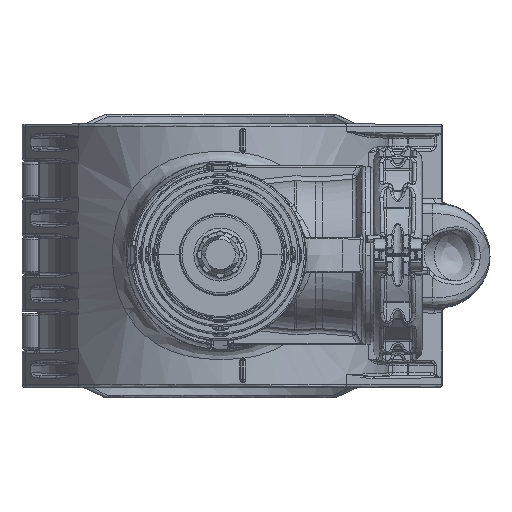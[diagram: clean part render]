
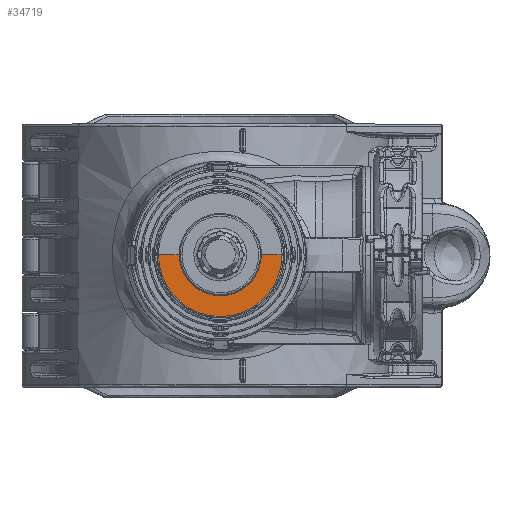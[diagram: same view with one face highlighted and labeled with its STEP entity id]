
A CAD part, top view. The second image highlights one B-rep face of the part: STEP entity #34719.
In plain terms, the highlighted free-form (B-spline) face has degree [1, 1] with [2, 2] control points.
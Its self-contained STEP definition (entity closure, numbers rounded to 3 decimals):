
#34719=ADVANCED_FACE('',(#90751),#90752,.T.);
#75167=VERTEX_POINT('',#131857);
#75169=VERTEX_POINT('',#131859);
#75171=EDGE_CURVE('',#75167,#75169,#131861,.T.);
#75173=VERTEX_POINT('',#131863);
#75175=EDGE_CURVE('',#75167,#75173,#131865,.T.);
#75177=VERTEX_POINT('',#131867);
#75179=EDGE_CURVE('',#75173,#75177,#131869,.T.);
#75181=VERTEX_POINT('',#131871);
#75183=EDGE_CURVE('',#75181,#75177,#131873,.T.);
#75185=EDGE_CURVE('',#75181,#75169,#131875,.T.);
#90751=FACE_OUTER_BOUND('',#216543,.T.);
#90752=B_SPLINE_SURFACE_WITH_KNOTS('',1,1,((#216544,#216545),(#216546,#216547)),.UNSPECIFIED.,.F.,.F.,.F.,(2,2),(2,2),(0.01,0.99),(0.019,0.981),.UNSPECIFIED.);
#131857=CARTESIAN_POINT('',(15.607,0.,255.297));
#131859=CARTESIAN_POINT('',(24.655,0.,255.297));
#131861=LINE('',#338601,#338602);
#131863=CARTESIAN_POINT('',(13.697,-7.48,255.232));
#131865=B_SPLINE_CURVE_WITH_KNOTS('',4,(#338607,#338608,#338609,#338610,#338611),.UNSPECIFIED.,.F.,.F.,(5,5),(0.0,1.0),.UNSPECIFIED.);
#131867=CARTESIAN_POINT('',(-15.617,0.,255.297));
#131869=B_SPLINE_CURVE_WITH_KNOTS('',5,(#338616,#338617,#338618,#338619,#338620,#338621,#338622,#338623,#338624,#338625,#338626,#338627),.UNSPECIFIED.,.F.,.F.,(6,3,3,6),(0.0,0.301,0.788,1.0),.UNSPECIFIED.);
#131871=CARTESIAN_POINT('',(-24.665,0.,255.297));
#131873=LINE('',#338632,#338633);
#131875=CIRCLE('',#338636,24.66);
#216543=EDGE_LOOP('',(#370291,#370292,#370293,#370294,#370295));
#216544=CARTESIAN_POINT('',(-24.67,-24.688,255.082));
#216545=CARTESIAN_POINT('',(-24.67,0.001,255.297));
#216546=CARTESIAN_POINT('',(24.66,-24.688,255.082));
#216547=CARTESIAN_POINT('',(24.66,0.001,255.297));
#338601=CARTESIAN_POINT('',(15.607,0.,255.297));
#338602=VECTOR('',#385971,1.0);
#338607=CARTESIAN_POINT('',(15.607,0.,255.297));
#338608=CARTESIAN_POINT('',(15.607,-1.95,255.28));
#338609=CARTESIAN_POINT('',(15.281,-3.901,255.263));
#338610=CARTESIAN_POINT('',(14.632,-5.768,255.247));
#338611=CARTESIAN_POINT('',(13.697,-7.48,255.232));
#338616=CARTESIAN_POINT('',(13.697,-7.48,255.232));
#338617=CARTESIAN_POINT('',(12.507,-9.658,255.213));
#338618=CARTESIAN_POINT('',(10.885,-11.599,255.196));
#338619=CARTESIAN_POINT('',(8.893,-13.189,255.182));
#338620=CARTESIAN_POINT('',(2.991,-16.204,255.156));
#338621=CARTESIAN_POINT('',(-3.833,-15.964,255.158));
#338622=CARTESIAN_POINT('',(-7.858,-14.417,255.171));
#338623=CARTESIAN_POINT('',(-12.498,-10.518,255.205));
#338624=CARTESIAN_POINT('',(-14.881,-5.202,255.252));
#338625=CARTESIAN_POINT('',(-15.371,-3.499,255.267));
#338626=CARTESIAN_POINT('',(-15.617,-1.749,255.282));
#338627=CARTESIAN_POINT('',(-15.617,0.,255.297));
#338632=CARTESIAN_POINT('',(-24.665,0.,255.297));
#338633=VECTOR('',#385972,1.0);
#338636=AXIS2_PLACEMENT_3D('',#385973,#385974,#385975);
#370291=ORIENTED_EDGE('',*,*,#75171,.F.);
#370292=ORIENTED_EDGE('',*,*,#75175,.T.);
#370293=ORIENTED_EDGE('',*,*,#75179,.T.);
#370294=ORIENTED_EDGE('',*,*,#75183,.F.);
#370295=ORIENTED_EDGE('',*,*,#75185,.T.);
#385971=DIRECTION('',(1.0,0.,0.0));
#385972=DIRECTION('',(1.0,0.,0.0));
#385973=CARTESIAN_POINT('',(-0.005,-0.028,255.297));
#385974=DIRECTION('',(0.,-0.009,1.));
#385975=DIRECTION('',(-1.,0.001,0.));
